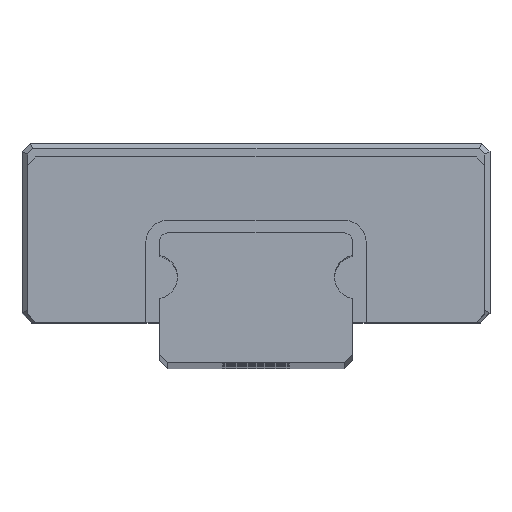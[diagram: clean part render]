
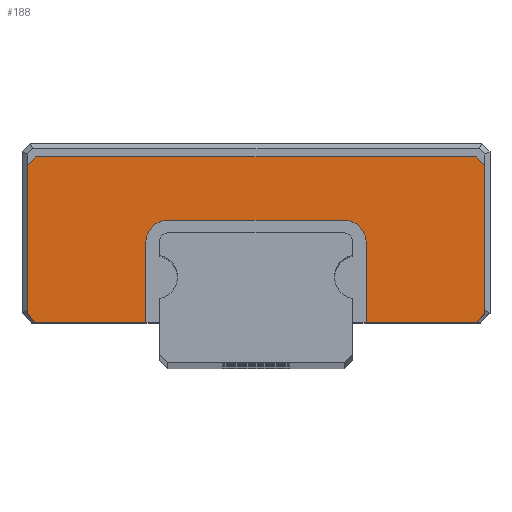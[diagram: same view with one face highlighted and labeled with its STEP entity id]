
A CAD part, top view. The second image highlights one B-rep face of the part: STEP entity #188.
In plain terms, the highlighted planar face has unit normal (0, 0, 1).
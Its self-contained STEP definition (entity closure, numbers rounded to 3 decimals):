
#188=ADVANCED_FACE('',(#421),#422,.F.);
#421=FACE_OUTER_BOUND('',#712,.T.);
#422=PLANE('',#713);
#712=EDGE_LOOP('',(#1281,#1282,#1283,#1284,#1285,#1286,#1287,#1288,#1289,#1290,#1291,#1292,#1293,#1294));
#713=AXIS2_PLACEMENT_3D('',#1295,#1296,#1297);
#1281=ORIENTED_EDGE('',*,*,#1760,.F.);
#1282=ORIENTED_EDGE('',*,*,#1831,.T.);
#1283=ORIENTED_EDGE('',*,*,#1832,.T.);
#1284=ORIENTED_EDGE('',*,*,#1833,.T.);
#1285=ORIENTED_EDGE('',*,*,#1834,.T.);
#1286=ORIENTED_EDGE('',*,*,#1835,.T.);
#1287=ORIENTED_EDGE('',*,*,#1836,.F.);
#1288=ORIENTED_EDGE('',*,*,#1830,.F.);
#1289=ORIENTED_EDGE('',*,*,#1837,.F.);
#1290=ORIENTED_EDGE('',*,*,#1838,.F.);
#1291=ORIENTED_EDGE('',*,*,#1839,.F.);
#1292=ORIENTED_EDGE('',*,*,#1840,.F.);
#1293=ORIENTED_EDGE('',*,*,#1841,.F.);
#1294=ORIENTED_EDGE('',*,*,#1842,.F.);
#1295=CARTESIAN_POINT('',(3.65,3.1,41.25));
#1296=DIRECTION('',(-0.0,0.0,-1.0));
#1297=DIRECTION('',(0.,-1.0,0.0));
#1760=EDGE_CURVE('',#2090,#2072,#2092,.T.);
#1830=EDGE_CURVE('',#2209,#2207,#2211,.T.);
#1831=EDGE_CURVE('',#2090,#2212,#2213,.T.);
#1832=EDGE_CURVE('',#2212,#2214,#2215,.T.);
#1833=EDGE_CURVE('',#2214,#2216,#2217,.T.);
#1834=EDGE_CURVE('',#2216,#2218,#2219,.T.);
#1835=EDGE_CURVE('',#2218,#2220,#2221,.T.);
#1836=EDGE_CURVE('',#2207,#2220,#2222,.T.);
#1837=EDGE_CURVE('',#2223,#2209,#2224,.T.);
#1838=EDGE_CURVE('',#2225,#2223,#2226,.T.);
#1839=EDGE_CURVE('',#2227,#2225,#2228,.T.);
#1840=EDGE_CURVE('',#2229,#2227,#2230,.T.);
#1841=EDGE_CURVE('',#2231,#2229,#2232,.T.);
#1842=EDGE_CURVE('',#2072,#2231,#2233,.T.);
#2072=VERTEX_POINT('',#2532);
#2090=VERTEX_POINT('',#2559);
#2092=LINE('',#2562,#2563);
#2207=VERTEX_POINT('',#2740);
#2209=VERTEX_POINT('',#2743);
#2211=LINE('',#2746,#2747);
#2212=VERTEX_POINT('',#2748);
#2213=LINE('',#2749,#2750);
#2214=VERTEX_POINT('',#2751);
#2215=CIRCLE('',#2752,0.8);
#2216=VERTEX_POINT('',#2753);
#2217=LINE('',#2754,#2755);
#2218=VERTEX_POINT('',#2756);
#2219=CIRCLE('',#2757,0.8);
#2220=VERTEX_POINT('',#2758);
#2221=LINE('',#2759,#2760);
#2222=LINE('',#2761,#2762);
#2223=VERTEX_POINT('',#2763);
#2224=LINE('',#2764,#2765);
#2225=VERTEX_POINT('',#2766);
#2226=LINE('',#2767,#2768);
#2227=VERTEX_POINT('',#2769);
#2228=LINE('',#2770,#2771);
#2229=VERTEX_POINT('',#2772);
#2230=LINE('',#2773,#2774);
#2231=VERTEX_POINT('',#2775);
#2232=LINE('',#2776,#2777);
#2233=LINE('',#2778,#2779);
#2532=CARTESIAN_POINT('',(-8.,1.5,41.25));
#2559=CARTESIAN_POINT('',(-4.0,1.5,41.25));
#2562=CARTESIAN_POINT('',(-3.5,1.5,41.25));
#2563=VECTOR('',#3129,1.0);
#2740=CARTESIAN_POINT('',(8.,1.5,41.25));
#2743=CARTESIAN_POINT('',(8.3,1.8,41.25));
#2746=CARTESIAN_POINT('',(8.3,1.8,41.25));
#2747=VECTOR('',#3209,1.0);
#2748=CARTESIAN_POINT('',(-4.0,4.4,41.25));
#2749=CARTESIAN_POINT('',(-4.0,3.1,41.25));
#2750=VECTOR('',#3210,1.0);
#2751=CARTESIAN_POINT('',(-3.2,5.2,41.25));
#2752=AXIS2_PLACEMENT_3D('',#3211,#3212,#3213);
#2753=CARTESIAN_POINT('',(3.2,5.2,41.25));
#2754=CARTESIAN_POINT('',(3.65,5.2,41.25));
#2755=VECTOR('',#3214,1.0);
#2756=CARTESIAN_POINT('',(4.0,4.4,41.25));
#2757=AXIS2_PLACEMENT_3D('',#3215,#3216,#3217);
#2758=CARTESIAN_POINT('',(4.0,1.5,41.25));
#2759=CARTESIAN_POINT('',(4.0,3.1,41.25));
#2760=VECTOR('',#3218,1.0);
#2761=CARTESIAN_POINT('',(8.,1.5,41.25));
#2762=VECTOR('',#3219,1.0);
#2763=CARTESIAN_POINT('',(8.3,7.2,41.25));
#2764=CARTESIAN_POINT('',(8.3,7.2,41.25));
#2765=VECTOR('',#3220,1.0);
#2766=CARTESIAN_POINT('',(8.0,7.5,41.25));
#2767=CARTESIAN_POINT('',(8.0,7.5,41.25));
#2768=VECTOR('',#3221,1.0);
#2769=CARTESIAN_POINT('',(-8.0,7.5,41.25));
#2770=CARTESIAN_POINT('',(-8.0,7.5,41.25));
#2771=VECTOR('',#3222,1.0);
#2772=CARTESIAN_POINT('',(-8.3,7.2,41.25));
#2773=CARTESIAN_POINT('',(-8.3,7.2,41.25));
#2774=VECTOR('',#3223,1.0);
#2775=CARTESIAN_POINT('',(-8.3,1.8,41.25));
#2776=CARTESIAN_POINT('',(-8.3,1.8,41.25));
#2777=VECTOR('',#3224,1.0);
#2778=CARTESIAN_POINT('',(-8.,1.5,41.25));
#2779=VECTOR('',#3225,1.0);
#3129=DIRECTION('',(-1.0,0.,0.0));
#3209=DIRECTION('',(-0.707,-0.707,0.0));
#3210=DIRECTION('',(0.0,1.0,0.0));
#3211=CARTESIAN_POINT('',(-3.2,4.4,41.25));
#3212=DIRECTION('',(0.0,0.0,-1.0));
#3213=DIRECTION('',(-1.0,0.0,0.0));
#3214=DIRECTION('',(1.0,0.0,0.0));
#3215=CARTESIAN_POINT('',(3.2,4.4,41.25));
#3216=DIRECTION('',(0.0,0.0,-1.0));
#3217=DIRECTION('',(-1.0,0.0,0.0));
#3218=DIRECTION('',(0.0,-1.0,0.0));
#3219=DIRECTION('',(-1.0,0.,0.0));
#3220=DIRECTION('',(0.0,-1.0,0.0));
#3221=DIRECTION('',(0.707,-0.707,0.0));
#3222=DIRECTION('',(1.0,0.0,0.0));
#3223=DIRECTION('',(0.707,0.707,0.0));
#3224=DIRECTION('',(0.0,1.0,0.0));
#3225=DIRECTION('',(-0.707,0.707,0.0));
